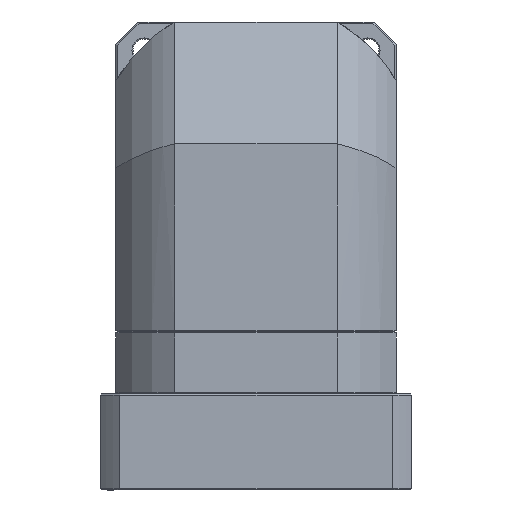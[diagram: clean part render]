
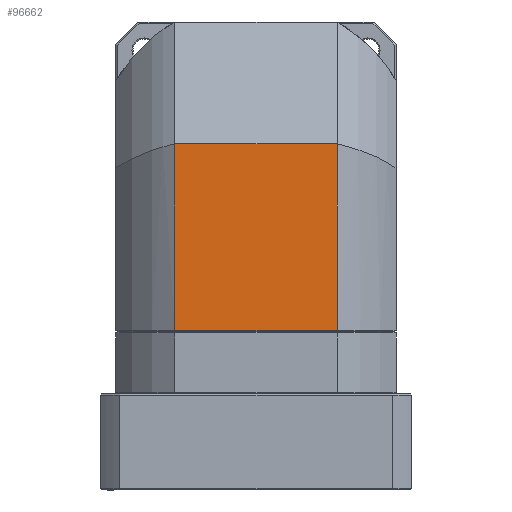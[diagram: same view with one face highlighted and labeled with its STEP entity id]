
A CAD part, front view. The second image highlights one B-rep face of the part: STEP entity #96662.
In plain terms, the highlighted planar face has unit normal (0, 1, 0).
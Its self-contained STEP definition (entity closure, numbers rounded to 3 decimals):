
#848 = DIRECTION ( 'NONE',  ( 0., 0., 1. ) ) ;
#1402 = EDGE_LOOP ( 'NONE', ( #50503, #22478, #89980, #99914 ) ) ;
#4685 = EDGE_CURVE ( 'NONE', #12112, #76431, #60961, .T. ) ;
#5469 = EDGE_CURVE ( 'NONE', #76431, #100842, #15486, .T. ) ;
#8300 = PLANE ( 'NONE',  #41182 ) ;
#10206 = EDGE_CURVE ( 'NONE', #12112, #22114, #72887, .T. ) ;
#12112 = VERTEX_POINT ( 'NONE', #90551 ) ;
#15486 = LINE ( 'NONE', #39933, #33874 ) ;
#22114 = VERTEX_POINT ( 'NONE', #66293 ) ;
#22478 = ORIENTED_EDGE ( 'NONE', *, *, #4685, .F. ) ;
#24419 = DIRECTION ( 'NONE',  ( 1., 0., 0. ) ) ;
#33874 = VECTOR ( 'NONE', #848, 1000. ) ;
#38160 = DIRECTION ( 'NONE',  ( 0., 0., 1. ) ) ;
#38436 = DIRECTION ( 'NONE',  ( 1., 0., 0. ) ) ;
#39837 = CARTESIAN_POINT ( 'NONE',  ( -33.407, -216.611, -69.2 ) ) ;
#39933 = CARTESIAN_POINT ( 'NONE',  ( 33.407, -216.611, -30.85 ) ) ;
#41182 = AXIS2_PLACEMENT_3D ( 'NONE', #39837, #94686, #47723 ) ;
#47723 = DIRECTION ( 'NONE',  ( 1., 0., 0. ) ) ;
#48788 = VECTOR ( 'NONE', #24419, 1000. ) ;
#50503 = ORIENTED_EDGE ( 'NONE', *, *, #5469, .F. ) ;
#60961 = LINE ( 'NONE', #85366, #100244 ) ;
#66293 = CARTESIAN_POINT ( 'NONE',  ( -33.407, -216.611, 7.5 ) ) ;
#67947 = VECTOR ( 'NONE', #38160, 1000. ) ;
#71856 = CARTESIAN_POINT ( 'NONE',  ( 33.407, -216.611, 7.5 ) ) ;
#72887 = LINE ( 'NONE', #77270, #67947 ) ;
#76431 = VERTEX_POINT ( 'NONE', #86392 ) ;
#77270 = CARTESIAN_POINT ( 'NONE',  ( -33.407, -216.611, -30.62 ) ) ;
#78258 = LINE ( 'NONE', #79307, #48788 ) ;
#79307 = CARTESIAN_POINT ( 'NONE',  ( 0., -216.611, 7.5 ) ) ;
#79628 = EDGE_CURVE ( 'NONE', #22114, #100842, #78258, .T. ) ;
#84173 = FACE_OUTER_BOUND ( 'NONE', #1402, .T. ) ;
#85366 = CARTESIAN_POINT ( 'NONE',  ( 0., -216.611, -69.2 ) ) ;
#86392 = CARTESIAN_POINT ( 'NONE',  ( 33.407, -216.611, -69.2 ) ) ;
#89980 = ORIENTED_EDGE ( 'NONE', *, *, #10206, .T. ) ;
#90551 = CARTESIAN_POINT ( 'NONE',  ( -33.407, -216.611, -69.2 ) ) ;
#94686 = DIRECTION ( 'NONE',  ( 0., -1., 0. ) ) ;
#96662 = ADVANCED_FACE ( 'NONE', ( #84173 ), #8300, .F. ) ;
#99914 = ORIENTED_EDGE ( 'NONE', *, *, #79628, .T. ) ;
#100244 = VECTOR ( 'NONE', #38436, 1000. ) ;
#100842 = VERTEX_POINT ( 'NONE', #71856 ) ;
